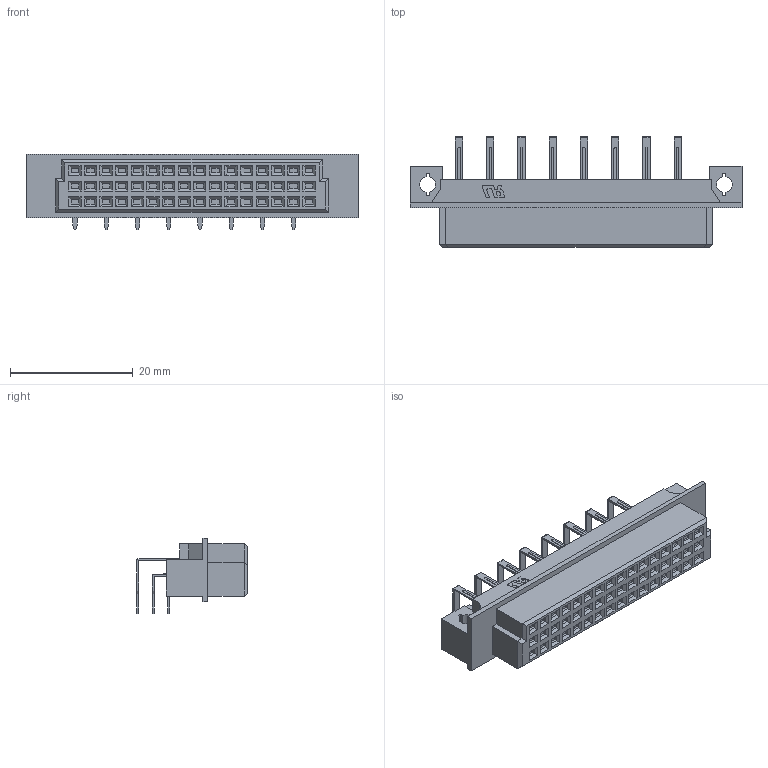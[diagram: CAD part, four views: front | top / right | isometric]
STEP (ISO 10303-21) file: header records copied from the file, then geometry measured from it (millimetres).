
FILE_DESCRIPTION (( 'STEP AP203' ), '1' );
FILE_NAME ('9001-C28241C00A.STEP', '2018-01-23T11:41:14', ( '' ), ( '' ), 'SwSTEP 2.0', 'SolidWorks 2011', '' );
FILE_SCHEMA (( 'CONFIG_CONTROL_DESIGN' ));
Length unit declared in the file: millimetre
Products named in the file (5): 9001-C28241C00A; 9001-C14Housing_1; 9001-C25_1; 9001-C23_1; 9001-C24_1
Assembly tree (25 placements, depth 2):
  9001-C28241C00A
    9001-C14Housing_1
    9001-C24_1  x8
    9001-C23_1  x8
    9001-C25_1  x8
Bounding box: 54 x 17.97 x 12.35 mm (x, y, z)
Volume: 4687.3 mm3; surface area: 4422.6 mm2
Topology: 49 solids, 49 shells, 1767 faces, 4638 edges, 3020 vertices
Faces by surface type: plane 1331, cylinder 436
Entity records: 20319 total; most frequent: CARTESIAN_POINT 3505, ORIENTED_EDGE 3256, DIRECTION 3106, EDGE_CURVE 1628, LINE 1460, VECTOR 1460, VERTEX_POINT 1018, AXIS2_PLACEMENT_3D 823
